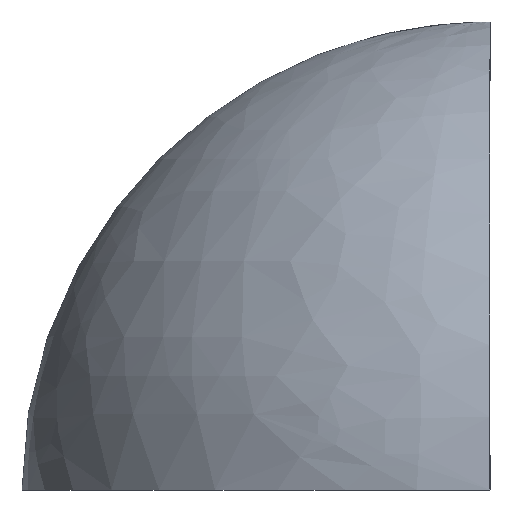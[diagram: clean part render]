
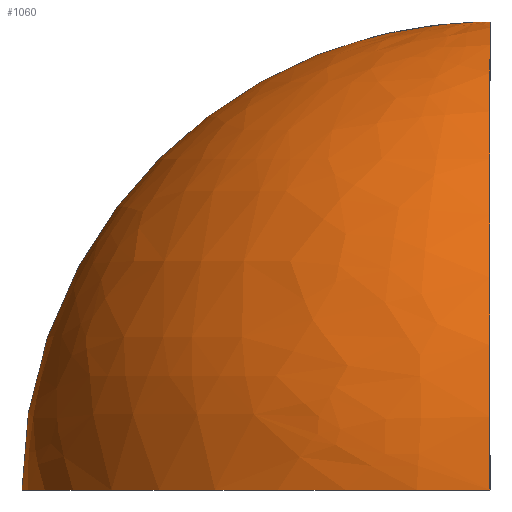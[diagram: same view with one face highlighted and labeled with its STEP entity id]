
A CAD part, left-side view. The second image highlights one B-rep face of the part: STEP entity #1060.
In plain terms, the highlighted free-form (B-spline) face has degree [3, 3] with [4, 4] control points.
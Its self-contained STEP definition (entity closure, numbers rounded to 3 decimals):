
#2 = CARTESIAN_POINT ( 'NONE',  ( 0., 30.096, 26.382 ) ) ;
#9 = CARTESIAN_POINT ( 'NONE',  ( 0., 29.216, 27.352 ) ) ;
#13 = CARTESIAN_POINT ( 'NONE',  ( 0., 31.755, 24.332 ) ) ;
#16 = CARTESIAN_POINT ( 'NONE',  ( -23.431, 40., 0. ) ) ;
#17 = CARTESIAN_POINT ( 'NONE',  ( 0., 31.349, 24.853 ) ) ;
#39 = CARTESIAN_POINT ( 'NONE',  ( 0., 24.439, 31.775 ) ) ;
#40 = CARTESIAN_POINT ( 'NONE',  ( 0., 0., 40. ) ) ;
#46 = CARTESIAN_POINT ( 'NONE',  ( 0., 32.913, 22.741 ) ) ;
#48 = CARTESIAN_POINT ( 'NONE',  ( 0., 32.537, 23.277 ) ) ;
#50 = CIRCLE ( 'NONE', #874, 40. ) ;
#81 = CARTESIAN_POINT ( 'NONE',  ( 0., 40., 23.431 ) ) ;
#83 = CARTESIAN_POINT ( 'NONE',  ( 0., 37.206, 14.702 ) ) ;
#88 = CARTESIAN_POINT ( 'NONE',  ( 0., 35.952, 17.728 ) ) ;
#93 = FACE_OUTER_BOUND ( 'NONE', #1050, .T. ) ;
#96 = CARTESIAN_POINT ( 'NONE',  ( -13.726, 23.431, 40. ) ) ;
#98 = CARTESIAN_POINT ( 'NONE',  ( 0., 34.725, 20.025 ) ) ;
#108 = CARTESIAN_POINT ( 'NONE',  ( -23.431, 13.726, 40. ) ) ;
#109 = CARTESIAN_POINT ( 'NONE',  ( 0., 38.093, 12.22 ) ) ;
#111 = CARTESIAN_POINT ( 'NONE',  ( 0., 37.887, 12.847 ) ) ;
#112 = CARTESIAN_POINT ( 'NONE',  ( 0., 0., 40. ) ) ;
#116 = CARTESIAN_POINT ( 'NONE',  ( 0., 37.442, 14.089 ) ) ;
#130 = CARTESIAN_POINT ( 'NONE',  ( 0., 39.741, 5.238 ) ) ;
#134 = CARTESIAN_POINT ( 'NONE',  ( 0., 38.98, 9.07 ) ) ;
#139 = CARTESIAN_POINT ( 'NONE',  ( 0., 38.664, 10.337 ) ) ;
#143 = CARTESIAN_POINT ( 'NONE',  ( 0., 40., 0. ) ) ;
#186 = CIRCLE ( 'NONE', #294, 40. ) ;
#189 = CARTESIAN_POINT ( 'NONE',  ( 0., 21.151, 33.957 ) ) ;
#195 = CARTESIAN_POINT ( 'NONE',  ( 0., 21.709, 33.603 ) ) ;
#217 = CARTESIAN_POINT ( 'NONE',  ( 0., 0., 40. ) ) ;
#243 = CARTESIAN_POINT ( 'NONE',  ( 0., 10.404, 38.629 ) ) ;
#263 = CARTESIAN_POINT ( 'NONE',  ( 0., 40., 2.641 ) ) ;
#285 = CARTESIAN_POINT ( 'NONE',  ( -40., 23.431, 0. ) ) ;
#290 = CARTESIAN_POINT ( 'NONE',  ( 0., 0., 40. ) ) ;
#293 = CARTESIAN_POINT ( 'NONE',  ( 0., 0., 0. ) ) ;
#294 = AXIS2_PLACEMENT_3D ( 'NONE', #293, #332, #766 ) ;
#326 = CARTESIAN_POINT ( 'NONE',  ( 0., 0.081, 40. ) ) ;
#332 = DIRECTION ( 'NONE',  ( 0., -1., 0. ) ) ;
#347 = CARTESIAN_POINT ( 'NONE',  ( 0., 20.022, 34.635 ) ) ;
#350 = CARTESIAN_POINT ( 'NONE',  ( 0., 1.154, 39.986 ) ) ;
#391 = CARTESIAN_POINT ( 'NONE',  ( 0., 0.165, 40. ) ) ;
#408 = CARTESIAN_POINT ( 'NONE',  ( 0., 0.577, 39.996 ) ) ;
#416 = CARTESIAN_POINT ( 'NONE',  ( 0., 1.647, 39.967 ) ) ;
#423 = CARTESIAN_POINT ( 'NONE',  ( 0., 3.287, 39.87 ) ) ;
#431 = CARTESIAN_POINT ( 'NONE',  ( 0., 0.33, 39.999 ) ) ;
#436 = DIRECTION ( 'NONE',  ( 1., 0., 0. ) ) ;
#490 = CARTESIAN_POINT ( 'NONE',  ( 0., 5.246, 39.676 ) ) ;
#499 = CARTESIAN_POINT ( 'NONE',  ( 0., 6.545, 39.483 ) ) ;
#501 = EDGE_CURVE ( 'NONE', #1194, #1889, #50, .T. ) ;
#531 = CARTESIAN_POINT ( 'NONE',  ( 0., 40., 0. ) ) ;
#555 = CARTESIAN_POINT ( 'NONE',  ( 0., 2.632, 39.919 ) ) ;
#560 = CARTESIAN_POINT ( 'NONE',  ( 0., 17.721, 35.884 ) ) ;
#567 = CARTESIAN_POINT ( 'NONE',  ( 0., 11.035, 38.453 ) ) ;
#571 = CARTESIAN_POINT ( 'NONE',  ( 0., 9.128, 38.95 ) ) ;
#575 = CARTESIAN_POINT ( 'NONE',  ( -40., 0., 23.431 ) ) ;
#593 = CARTESIAN_POINT ( 'NONE',  ( -40., 0., 0. ) ) ;
#598 =( BOUNDED_SURFACE ( )  B_SPLINE_SURFACE ( 3, 3, ( 
 ( #40, #632, #112, #217 ),
 ( #708, #96, #108, #860 ),
 ( #81, #1361, #823, #575 ),
 ( #531, #16, #285, #906 ) ),
 .UNSPECIFIED., .F., .F., .F. ) 
 B_SPLINE_SURFACE_WITH_KNOTS ( ( 4, 4 ),
 ( 4, 4 ),
 ( 0., 1. ),
 ( 0., 1. ),
 .UNSPECIFIED. ) 
 GEOMETRIC_REPRESENTATION_ITEM ( )  RATIONAL_B_SPLINE_SURFACE ( (
 ( 1., 0.805, 0.805, 1.),
 ( 0.805, 0.648, 0.648, 0.805),
 ( 0.805, 0.648, 0.648, 0.805),
 ( 1., 0.805, 0.805, 1.) ) ) 
 REPRESENTATION_ITEM ( '' )  SURFACE ( )  );
#605 = CARTESIAN_POINT ( 'NONE',  ( 0., 15.364, 37. ) ) ;
#625 = CARTESIAN_POINT ( 'NONE',  ( 0., 19.451, 34.958 ) ) ;
#632 = CARTESIAN_POINT ( 'NONE',  ( 0., 0., 40. ) ) ;
#641 = CARTESIAN_POINT ( 'NONE',  ( 0., 12.911, 37.881 ) ) ;
#670 = CARTESIAN_POINT ( 'NONE',  ( 0., 8.483, 39.096 ) ) ;
#704 = CARTESIAN_POINT ( 'NONE',  ( 0., 40., 0. ) ) ;
#708 = CARTESIAN_POINT ( 'NONE',  ( 0., 23.431, 40. ) ) ;
#711 = ORIENTED_EDGE ( 'NONE', *, *, #1161, .F. ) ;
#751 = B_SPLINE_CURVE_WITH_KNOTS ( 'NONE', 3,
 ( #143, #263, #130, #134, #139, #109, #111, #116, #83, #88, #98, #46, #48, #13, #17, #2, #9, #1810, #39, #195, #189, #347, #625, #560, #605, #641, #567, #243, #571, #670, #499, #490, #423, #555, #416, #350, #408, #431, #391, #326, #290 ),
 .UNSPECIFIED., .F., .F.,
 ( 4, 2, 2, 2, 2, 2, 2, 2, 2, 2, 2, 2, 1, 2, 2, 2, 2, 2, 1, 1, 2, 4 ),
 ( 0., 0.008, 0.012, 0.014, 0.016, 0.023, 0.025, 0.027, 0.031, 0.039, 0.041, 0.043, 0.047, 0.051, 0.053, 0.055, 0.059, 0.061, 0.062, 0.062, 0.062, 0.062 ),
 .UNSPECIFIED. ) ;
#766 = DIRECTION ( 'NONE',  ( 0., 0., 1. ) ) ;
#823 = CARTESIAN_POINT ( 'NONE',  ( -40., 23.431, 23.431 ) ) ;
#833 = ORIENTED_EDGE ( 'NONE', *, *, #501, .F. ) ;
#860 = CARTESIAN_POINT ( 'NONE',  ( -23.431, 0., 40. ) ) ;
#874 = AXIS2_PLACEMENT_3D ( 'NONE', #1118, #1127, #436 ) ;
#906 = CARTESIAN_POINT ( 'NONE',  ( -40., 0., 0. ) ) ;
#988 = CARTESIAN_POINT ( 'NONE',  ( 0., 0., 40. ) ) ;
#1050 = EDGE_LOOP ( 'NONE', ( #1346, #833, #711 ) ) ;
#1060 = ADVANCED_FACE ( 'NONE', ( #93 ), #598, .T. ) ;
#1118 = CARTESIAN_POINT ( 'NONE',  ( 0., 0., 0. ) ) ;
#1127 = DIRECTION ( 'NONE',  ( 0., 0., -1. ) ) ;
#1161 = EDGE_CURVE ( 'NONE', #1345, #1194, #186, .T. ) ;
#1194 = VERTEX_POINT ( 'NONE', #593 ) ;
#1345 = VERTEX_POINT ( 'NONE', #988 ) ;
#1346 = ORIENTED_EDGE ( 'NONE', *, *, #1498, .F. ) ;
#1361 = CARTESIAN_POINT ( 'NONE',  ( -23.431, 40., 23.431 ) ) ;
#1498 = EDGE_CURVE ( 'NONE', #1889, #1345, #751, .T. ) ;
#1810 = CARTESIAN_POINT ( 'NONE',  ( 0., 26.451, 30.119 ) ) ;
#1889 = VERTEX_POINT ( 'NONE', #704 ) ;
